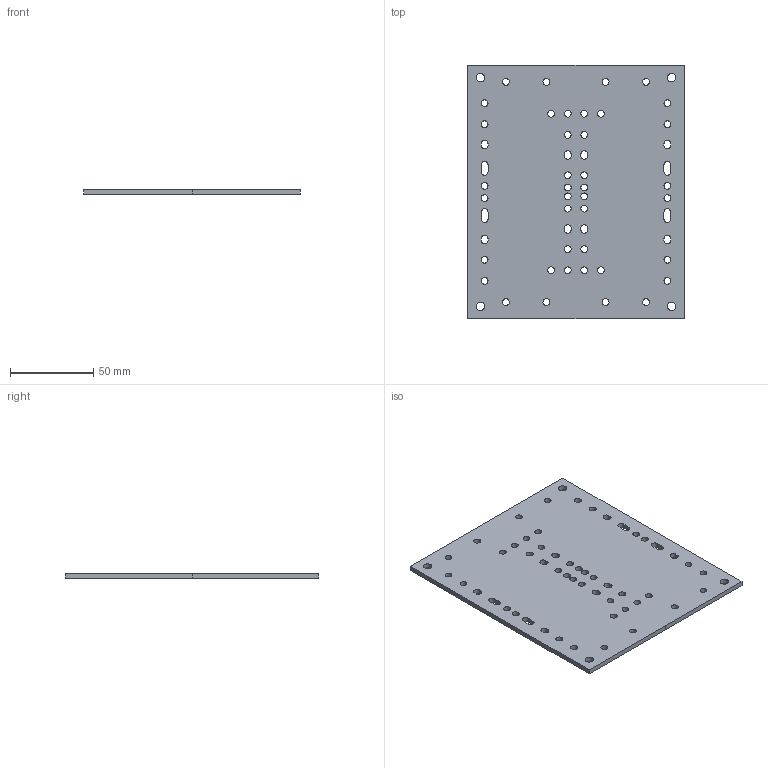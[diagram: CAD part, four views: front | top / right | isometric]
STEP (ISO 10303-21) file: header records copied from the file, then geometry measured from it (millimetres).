
FILE_DESCRIPTION ((), '1');
FILE_NAME ('C:\Users\tprototype\Desktop\TeslaGen Project\TeslaGen-v1 CAD Package\CNC Parts\Spark Gap\Base Plate\base_plate.stp', '2016-11-23T19:19:38', ('Unknown'), ('Unknown'), 'HarmonyWare STEP v1.7.11', 'HarmonyWare Translators', '');
FILE_SCHEMA (('CONFIG_CONTROL_DESIGN'));
Length unit declared in the file: millimetre
Products named in the file (1): product-name
Bounding box: 130 x 152.55 x 3 mm (x, y, z)
Volume: 56956.3 mm3; surface area: 41971.3 mm2
Topology: 1 solids, 1 shells, 102 faces, 300 edges, 200 vertices
Faces by surface type: bspline 102
Entity records: 6817 total; most frequent: CARTESIAN_POINT 4840, ORIENTED_EDGE 600, EDGE_CURVE 300, EDGE_LOOP 214, B_SPLINE_CURVE_WITH_KNOTS 212, VERTEX_POINT 200, FACE_BOUND 112, FACE_OUTER_BOUND 102
